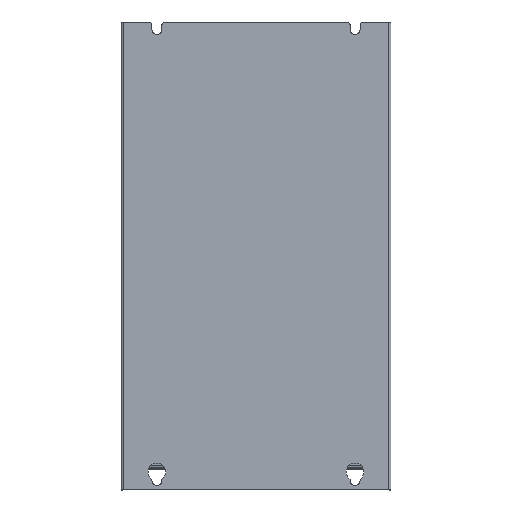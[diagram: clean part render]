
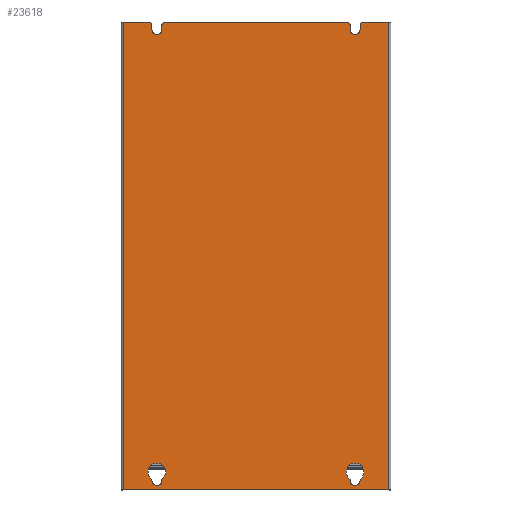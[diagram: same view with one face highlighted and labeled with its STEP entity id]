
A CAD part, front view. The second image highlights one B-rep face of the part: STEP entity #23618.
In plain terms, the highlighted planar face has unit normal (0, -1, 0).
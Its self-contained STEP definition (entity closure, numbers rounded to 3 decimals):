
#20100=DIRECTION('',(0.,0.,-1.));
#20101=VECTOR('',#20100,425.);
#20102=CARTESIAN_POINT('',(0.5,-188.5,425.));
#20103=LINE('',#20102,#20101);
#20104=CARTESIAN_POINT('',(218.5,-188.5,422.));
#20105=DIRECTION('',(0.,1.,0.));
#20106=DIRECTION('',(-1.,0.,0.));
#20107=AXIS2_PLACEMENT_3D('',#20104,#20105,#20106);
#20109=CARTESIAN_POINT('',(23.5,-188.5,422.));
#20110=DIRECTION('',(0.,1.,0.));
#20111=DIRECTION('',(0.,0.,1.));
#20112=AXIS2_PLACEMENT_3D('',#20109,#20110,#20111);
#20114=CARTESIAN_POINT('',(31.,-188.5,418.));
#20115=DIRECTION('',(0.,-1.,0.));
#20116=DIRECTION('',(-1.,0.,0.));
#20117=AXIS2_PLACEMENT_3D('',#20114,#20115,#20116);
#20119=CARTESIAN_POINT('',(38.5,-188.5,422.));
#20120=DIRECTION('',(0.,1.,0.));
#20121=DIRECTION('',(-1.,0.,0.));
#20122=AXIS2_PLACEMENT_3D('',#20119,#20120,#20121);
#20124=CARTESIAN_POINT('',(203.5,-188.5,422.));
#20125=DIRECTION('',(0.,1.,0.));
#20126=DIRECTION('',(0.,0.,1.));
#20127=AXIS2_PLACEMENT_3D('',#20124,#20125,#20126);
#20129=CARTESIAN_POINT('',(211.,-188.5,418.));
#20130=DIRECTION('',(0.,-1.,0.));
#20131=DIRECTION('',(-1.,0.,0.));
#20132=AXIS2_PLACEMENT_3D('',#20129,#20130,#20131);
#20134=CARTESIAN_POINT('',(31.,-188.5,8.5));
#20135=DIRECTION('',(0.,-1.,0.));
#20136=DIRECTION('',(-1.,0.,0.));
#20137=AXIS2_PLACEMENT_3D('',#20134,#20135,#20136);
#20139=CARTESIAN_POINT('',(31.,-188.5,16.5));
#20140=DIRECTION('',(0.,-1.,0.));
#20141=DIRECTION('',(0.562,0.,-0.827));
#20142=AXIS2_PLACEMENT_3D('',#20139,#20140,#20141);
#20144=CARTESIAN_POINT('',(31.,-188.5,16.5));
#20145=DIRECTION('',(0.,-1.,0.));
#20146=DIRECTION('',(0.563,0.,0.827));
#20147=AXIS2_PLACEMENT_3D('',#20144,#20145,#20146);
#20149=CARTESIAN_POINT('',(211.,-188.5,8.5));
#20150=DIRECTION('',(0.,-1.,0.));
#20151=DIRECTION('',(-1.,0.,0.));
#20152=AXIS2_PLACEMENT_3D('',#20149,#20150,#20151);
#20154=CARTESIAN_POINT('',(211.,-188.5,16.5));
#20155=DIRECTION('',(0.,-1.,0.));
#20156=DIRECTION('',(0.562,0.,-0.827));
#20157=AXIS2_PLACEMENT_3D('',#20154,#20155,#20156);
#20159=CARTESIAN_POINT('',(211.,-188.5,16.5));
#20160=DIRECTION('',(0.,-1.,0.));
#20161=DIRECTION('',(0.563,0.,0.827));
#20162=AXIS2_PLACEMENT_3D('',#20159,#20160,#20161);
#20164=DIRECTION('',(0.,0.,-1.));
#20165=VECTOR('',#20164,4.);
#20166=CARTESIAN_POINT('',(215.5,-188.5,422.));
#20167=LINE('',#20166,#20165);
#20244=DIRECTION('',(0.,0.,-1.));
#20245=VECTOR('',#20244,4.);
#20246=CARTESIAN_POINT('',(206.5,-188.5,422.));
#20247=LINE('',#20246,#20245);
#20260=DIRECTION('',(-1.,0.,0.));
#20261=VECTOR('',#20260,165.);
#20262=CARTESIAN_POINT('',(203.5,-188.5,425.));
#20263=LINE('',#20262,#20261);
#20276=DIRECTION('',(0.,0.,-1.));
#20277=VECTOR('',#20276,4.);
#20278=CARTESIAN_POINT('',(35.5,-188.5,422.));
#20279=LINE('',#20278,#20277);
#20292=DIRECTION('',(0.,0.,-1.));
#20293=VECTOR('',#20292,4.);
#20294=CARTESIAN_POINT('',(26.5,-188.5,422.));
#20295=LINE('',#20294,#20293);
#20304=DIRECTION('',(-1.,0.,0.));
#20305=VECTOR('',#20304,23.);
#20306=CARTESIAN_POINT('',(23.5,-188.5,425.));
#20307=LINE('',#20306,#20305);
#20324=DIRECTION('',(-1.,0.,0.));
#20325=VECTOR('',#20324,241.);
#20326=CARTESIAN_POINT('',(241.5,-188.5,0.));
#20327=LINE('',#20326,#20325);
#20782=DIRECTION('',(0.,0.,1.));
#20783=VECTOR('',#20782,425.);
#20784=CARTESIAN_POINT('',(241.5,-188.5,0.));
#20785=LINE('',#20784,#20783);
#20868=DIRECTION('',(-1.,0.,0.));
#20869=VECTOR('',#20868,23.);
#20870=CARTESIAN_POINT('',(241.5,-188.5,425.));
#20871=LINE('',#20870,#20869);
#21536=DIRECTION('',(0.,0.,1.));
#21537=VECTOR('',#21536,1.385);
#21538=CARTESIAN_POINT('',(215.5,-188.5,8.5));
#21539=LINE('',#21538,#21537);
#21552=DIRECTION('',(0.,0.,-1.));
#21553=VECTOR('',#21552,1.386);
#21554=CARTESIAN_POINT('',(206.5,-188.5,9.886));
#21555=LINE('',#21554,#21553);
#21568=DIRECTION('',(0.,0.,1.));
#21569=VECTOR('',#21568,1.385);
#21570=CARTESIAN_POINT('',(35.5,-188.5,8.5));
#21571=LINE('',#21570,#21569);
#21584=DIRECTION('',(0.,0.,-1.));
#21585=VECTOR('',#21584,1.386);
#21586=CARTESIAN_POINT('',(26.5,-188.5,9.886));
#21587=LINE('',#21586,#21585);
#22124=CARTESIAN_POINT('',(0.5,-188.5,425.));
#22125=VERTEX_POINT('',#22124);
#22128=CARTESIAN_POINT('',(0.5,-188.5,0.));
#22129=VERTEX_POINT('',#22128);
#22208=CARTESIAN_POINT('',(215.5,-188.5,422.));
#22209=CARTESIAN_POINT('',(215.5,-188.5,418.));
#22210=VERTEX_POINT('',#22208);
#22211=VERTEX_POINT('',#22209);
#22212=CARTESIAN_POINT('',(206.5,-188.5,418.));
#22213=VERTEX_POINT('',#22212);
#22214=CARTESIAN_POINT('',(206.5,-188.5,422.));
#22215=VERTEX_POINT('',#22214);
#22216=CARTESIAN_POINT('',(203.5,-188.5,425.));
#22217=VERTEX_POINT('',#22216);
#22218=CARTESIAN_POINT('',(38.5,-188.5,425.));
#22219=VERTEX_POINT('',#22218);
#22220=CARTESIAN_POINT('',(35.5,-188.5,422.));
#22221=VERTEX_POINT('',#22220);
#22222=CARTESIAN_POINT('',(35.5,-188.5,418.));
#22223=VERTEX_POINT('',#22222);
#22224=CARTESIAN_POINT('',(26.5,-188.5,418.));
#22225=VERTEX_POINT('',#22224);
#22226=CARTESIAN_POINT('',(26.5,-188.5,422.));
#22227=VERTEX_POINT('',#22226);
#22228=CARTESIAN_POINT('',(23.5,-188.5,425.));
#22229=VERTEX_POINT('',#22228);
#22230=CARTESIAN_POINT('',(241.5,-188.5,0.));
#22231=VERTEX_POINT('',#22230);
#22232=CARTESIAN_POINT('',(241.5,-188.5,425.));
#22233=VERTEX_POINT('',#22232);
#22234=CARTESIAN_POINT('',(218.5,-188.5,425.));
#22235=VERTEX_POINT('',#22234);
#22236=CARTESIAN_POINT('',(26.5,-188.5,8.5));
#22237=CARTESIAN_POINT('',(35.5,-188.5,8.5));
#22238=VERTEX_POINT('',#22236);
#22239=VERTEX_POINT('',#22237);
#22240=CARTESIAN_POINT('',(26.5,-188.5,9.886));
#22241=VERTEX_POINT('',#22240);
#22242=CARTESIAN_POINT('',(35.5,-188.5,23.114));
#22243=VERTEX_POINT('',#22242);
#22244=CARTESIAN_POINT('',(35.499,-188.5,9.885));
#22245=VERTEX_POINT('',#22244);
#22246=CARTESIAN_POINT('',(206.5,-188.5,8.5));
#22247=CARTESIAN_POINT('',(215.5,-188.5,8.5));
#22248=VERTEX_POINT('',#22246);
#22249=VERTEX_POINT('',#22247);
#22250=CARTESIAN_POINT('',(206.5,-188.5,9.886));
#22251=VERTEX_POINT('',#22250);
#22252=CARTESIAN_POINT('',(215.5,-188.5,23.114));
#22253=VERTEX_POINT('',#22252);
#22254=CARTESIAN_POINT('',(215.499,-188.5,9.885));
#22255=VERTEX_POINT('',#22254);
#23556=CARTESIAN_POINT('',(121.,-188.5,212.5));
#23557=DIRECTION('',(0.,1.,0.));
#23558=DIRECTION('',(-1.,0.,0.));
#23559=AXIS2_PLACEMENT_3D('',#23556,#23557,#23558);
#23560=PLANE('',#23559);
#23562=ORIENTED_EDGE('',*,*,#23561,.F.);
#23564=ORIENTED_EDGE('',*,*,#23563,.T.);
#23566=ORIENTED_EDGE('',*,*,#23565,.F.);
#23568=ORIENTED_EDGE('',*,*,#23567,.F.);
#23570=ORIENTED_EDGE('',*,*,#23569,.T.);
#23571=ORIENTED_EDGE('',*,*,#23550,.F.);
#23573=ORIENTED_EDGE('',*,*,#23572,.F.);
#23575=ORIENTED_EDGE('',*,*,#23574,.T.);
#23577=ORIENTED_EDGE('',*,*,#23576,.T.);
#23579=ORIENTED_EDGE('',*,*,#23578,.T.);
#23581=ORIENTED_EDGE('',*,*,#23580,.F.);
#23583=ORIENTED_EDGE('',*,*,#23582,.T.);
#23585=ORIENTED_EDGE('',*,*,#23584,.F.);
#23587=ORIENTED_EDGE('',*,*,#23586,.T.);
#23589=ORIENTED_EDGE('',*,*,#23588,.T.);
#23591=ORIENTED_EDGE('',*,*,#23590,.T.);
#23592=EDGE_LOOP('',(#23562,#23564,#23566,#23568,#23570,#23571,#23573,#23575,
#23577,#23579,#23581,#23583,#23585,#23587,#23589,#23591));
#23593=FACE_OUTER_BOUND('',#23592,.F.);
#23595=ORIENTED_EDGE('',*,*,#23594,.T.);
#23597=ORIENTED_EDGE('',*,*,#23596,.T.);
#23599=ORIENTED_EDGE('',*,*,#23598,.T.);
#23601=ORIENTED_EDGE('',*,*,#23600,.T.);
#23603=ORIENTED_EDGE('',*,*,#23602,.T.);
#23604=EDGE_LOOP('',(#23595,#23597,#23599,#23601,#23603));
#23605=FACE_BOUND('',#23604,.F.);
#23607=ORIENTED_EDGE('',*,*,#23606,.T.);
#23609=ORIENTED_EDGE('',*,*,#23608,.T.);
#23611=ORIENTED_EDGE('',*,*,#23610,.T.);
#23613=ORIENTED_EDGE('',*,*,#23612,.T.);
#23615=ORIENTED_EDGE('',*,*,#23614,.T.);
#23616=EDGE_LOOP('',(#23607,#23609,#23611,#23613,#23615));
#23617=FACE_BOUND('',#23616,.F.);
#23618=ADVANCED_FACE('',(#23593,#23605,#23617),#23560,.F.);
#20108=CIRCLE('',#20107,3.);
#20113=CIRCLE('',#20112,3.);
#20118=CIRCLE('',#20117,4.5);
#20123=CIRCLE('',#20122,3.);
#20128=CIRCLE('',#20127,3.);
#20133=CIRCLE('',#20132,4.5);
#20138=CIRCLE('',#20137,4.5);
#20143=CIRCLE('',#20142,8.);
#20148=CIRCLE('',#20147,8.);
#20153=CIRCLE('',#20152,4.5);
#20158=CIRCLE('',#20157,8.);
#20163=CIRCLE('',#20162,8.);
#23550=EDGE_CURVE('',#22125,#22129,#20103,.T.);
#23561=EDGE_CURVE('',#22210,#22211,#20167,.T.);
#23563=EDGE_CURVE('',#22210,#22235,#20108,.T.);
#23565=EDGE_CURVE('',#22233,#22235,#20871,.T.);
#23567=EDGE_CURVE('',#22231,#22233,#20785,.T.);
#23569=EDGE_CURVE('',#22231,#22129,#20327,.T.);
#23572=EDGE_CURVE('',#22229,#22125,#20307,.T.);
#23574=EDGE_CURVE('',#22229,#22227,#20113,.T.);
#23576=EDGE_CURVE('',#22227,#22225,#20295,.T.);
#23578=EDGE_CURVE('',#22225,#22223,#20118,.T.);
#23580=EDGE_CURVE('',#22221,#22223,#20279,.T.);
#23582=EDGE_CURVE('',#22221,#22219,#20123,.T.);
#23584=EDGE_CURVE('',#22217,#22219,#20263,.T.);
#23586=EDGE_CURVE('',#22217,#22215,#20128,.T.);
#23588=EDGE_CURVE('',#22215,#22213,#20247,.T.);
#23590=EDGE_CURVE('',#22213,#22211,#20133,.T.);
#23594=EDGE_CURVE('',#22238,#22239,#20138,.T.);
#23596=EDGE_CURVE('',#22239,#22245,#21571,.T.);
#23598=EDGE_CURVE('',#22245,#22243,#20143,.T.);
#23600=EDGE_CURVE('',#22243,#22241,#20148,.T.);
#23602=EDGE_CURVE('',#22241,#22238,#21587,.T.);
#23606=EDGE_CURVE('',#22248,#22249,#20153,.T.);
#23608=EDGE_CURVE('',#22249,#22255,#21539,.T.);
#23610=EDGE_CURVE('',#22255,#22253,#20158,.T.);
#23612=EDGE_CURVE('',#22253,#22251,#20163,.T.);
#23614=EDGE_CURVE('',#22251,#22248,#21555,.T.);
